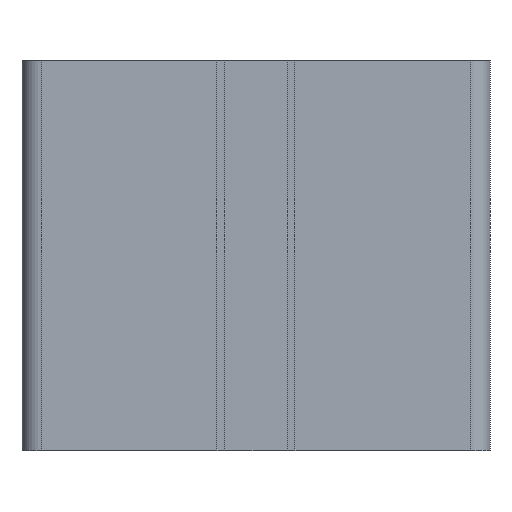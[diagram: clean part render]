
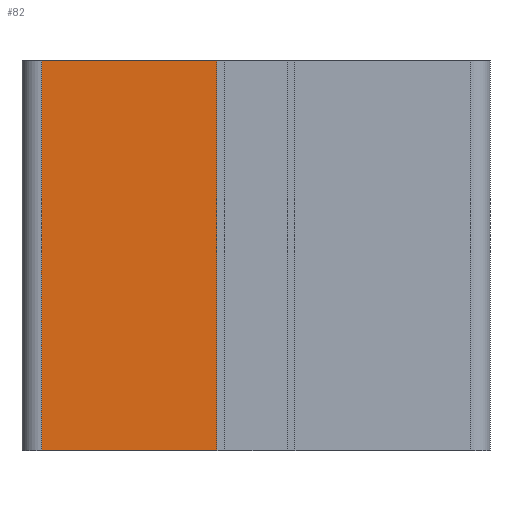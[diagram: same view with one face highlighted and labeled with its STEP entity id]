
A CAD part, left-side view. The second image highlights one B-rep face of the part: STEP entity #82.
In plain terms, the highlighted planar face has unit normal (-1, 0, 0).
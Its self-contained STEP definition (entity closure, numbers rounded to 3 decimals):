
#43 = DIRECTION ( 'NONE',  ( 0., 0., -1. ) ) ;
#82 = ADVANCED_FACE ( 'NONE', ( #1150 ), #2685, .T. ) ;
#135 = LINE ( 'NONE', #6023, #3296 ) ;
#259 = DIRECTION ( 'NONE',  ( 0., -1., 0. ) ) ;
#752 = DIRECTION ( 'NONE',  ( -1., 0., 0. ) ) ;
#1090 = ORIENTED_EDGE ( 'NONE', *, *, #1445, .F. ) ;
#1150 = FACE_OUTER_BOUND ( 'NONE', #2415, .T. ) ;
#1176 = DIRECTION ( 'NONE',  ( 0., -1., 0. ) ) ;
#1445 = EDGE_CURVE ( 'NONE', #2446, #1543, #6258, .T. ) ;
#1543 = VERTEX_POINT ( 'NONE', #6355 ) ;
#1664 = VECTOR ( 'NONE', #259, 1000. ) ;
#1774 = CARTESIAN_POINT ( 'NONE',  ( 408.605, 152.627, 0. ) ) ;
#2208 = VECTOR ( 'NONE', #5761, 1000. ) ;
#2313 = AXIS2_PLACEMENT_3D ( 'NONE', #2550, #752, #1176 ) ;
#2415 = EDGE_LOOP ( 'NONE', ( #3065, #1090, #4142, #3481 ) ) ;
#2446 = VERTEX_POINT ( 'NONE', #4852 ) ;
#2550 = CARTESIAN_POINT ( 'NONE',  ( 408.605, 152.627, 0. ) ) ;
#2665 = LINE ( 'NONE', #5972, #5873 ) ;
#2682 = VERTEX_POINT ( 'NONE', #5615 ) ;
#2685 = PLANE ( 'NONE',  #2313 ) ;
#3065 = ORIENTED_EDGE ( 'NONE', *, *, #6365, .T. ) ;
#3296 = VECTOR ( 'NONE', #5123, 1000. ) ;
#3481 = ORIENTED_EDGE ( 'NONE', *, *, #3819, .T. ) ;
#3660 = CARTESIAN_POINT ( 'NONE',  ( 408.605, 175.127, 0. ) ) ;
#3798 = EDGE_CURVE ( 'NONE', #2446, #5389, #2665, .T. ) ;
#3819 = EDGE_CURVE ( 'NONE', #5389, #2682, #135, .T. ) ;
#4142 = ORIENTED_EDGE ( 'NONE', *, *, #3798, .T. ) ;
#4852 = CARTESIAN_POINT ( 'NONE',  ( 408.605, 175.127, 50. ) ) ;
#5123 = DIRECTION ( 'NONE',  ( 0., -1., 0. ) ) ;
#5295 = CARTESIAN_POINT ( 'NONE',  ( 408.605, 175.127, 50. ) ) ;
#5389 = VERTEX_POINT ( 'NONE', #3660 ) ;
#5615 = CARTESIAN_POINT ( 'NONE',  ( 408.605, 152.627, 0. ) ) ;
#5761 = DIRECTION ( 'NONE',  ( 0., 0., 1. ) ) ;
#5873 = VECTOR ( 'NONE', #43, 1000. ) ;
#5972 = CARTESIAN_POINT ( 'NONE',  ( 408.605, 175.127, 0. ) ) ;
#6023 = CARTESIAN_POINT ( 'NONE',  ( 408.605, 152.627, 0. ) ) ;
#6113 = LINE ( 'NONE', #1774, #2208 ) ;
#6258 = LINE ( 'NONE', #5295, #1664 ) ;
#6355 = CARTESIAN_POINT ( 'NONE',  ( 408.605, 152.627, 50. ) ) ;
#6365 = EDGE_CURVE ( 'NONE', #2682, #1543, #6113, .T. ) ;
